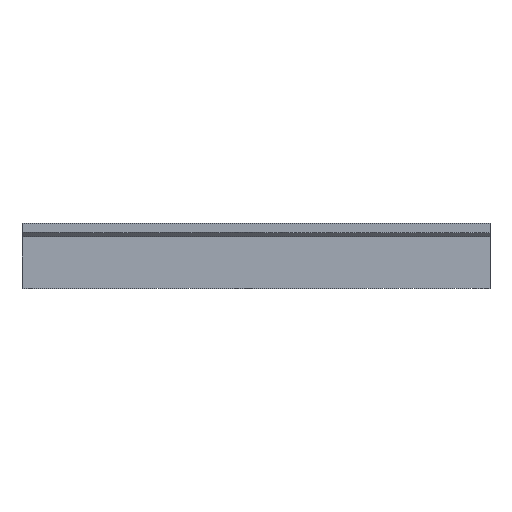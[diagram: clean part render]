
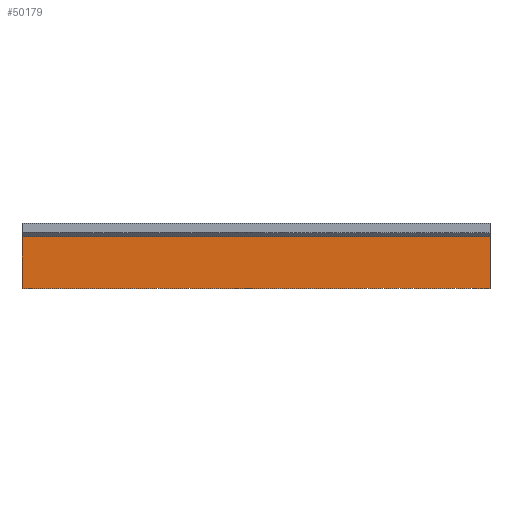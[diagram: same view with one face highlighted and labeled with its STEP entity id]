
A CAD part, front view. The second image highlights one B-rep face of the part: STEP entity #50179.
In plain terms, the highlighted planar face has unit normal (0, -1, 0).
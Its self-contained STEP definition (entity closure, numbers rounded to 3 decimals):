
#32 = PLANE('',#33);
#33 = AXIS2_PLACEMENT_3D('',#34,#35,#36);
#34 = CARTESIAN_POINT('',(-117.,-200.,-1.));
#35 = DIRECTION('',(1.,0.,-0.));
#36 = DIRECTION('',(0.,0.,1.));
#225 = VERTEX_POINT('',#226);
#226 = CARTESIAN_POINT('',(-117.,-176.,25.9));
#244 = B_SPLINE_SURFACE_WITH_KNOTS('',1,1,(
    (#245,#246)
    ,(#247,#248
    )),.UNSPECIFIED.,.F.,.F.,.F.,(2,2),(2,2),(0.,388.2),(0.,1.),
  .PIECEWISE_BEZIER_KNOTS.);
#245 = CARTESIAN_POINT('',(-192.,-176.,25.9));
#246 = CARTESIAN_POINT('',(-194.1,-178.1,28.));
#247 = CARTESIAN_POINT('',(192.,-176.,25.9));
#248 = CARTESIAN_POINT('',(194.1,-178.1,28.));
#258 = EDGE_CURVE('',#259,#225,#261,.T.);
#259 = VERTEX_POINT('',#260);
#260 = CARTESIAN_POINT('',(-117.,-176.,0.));
#261 = SURFACE_CURVE('',#262,(#266,#273),.PCURVE_S1.);
#262 = LINE('',#263,#264);
#263 = CARTESIAN_POINT('',(-117.,-176.,-0.5));
#264 = VECTOR('',#265,1.);
#265 = DIRECTION('',(0.,-0.,1.));
#266 = PCURVE('',#32,#267);
#267 = DEFINITIONAL_REPRESENTATION('',(#268),#272);
#268 = LINE('',#269,#270);
#269 = CARTESIAN_POINT('',(0.5,-24.));
#270 = VECTOR('',#271,1.);
#271 = DIRECTION('',(1.,0.));
#272 = ( GEOMETRIC_REPRESENTATION_CONTEXT(2) 
PARAMETRIC_REPRESENTATION_CONTEXT() REPRESENTATION_CONTEXT('2D SPACE',''
  ) );
#273 = PCURVE('',#274,#279);
#274 = PLANE('',#275);
#275 = AXIS2_PLACEMENT_3D('',#276,#277,#278);
#276 = CARTESIAN_POINT('',(-192.,-176.,0.));
#277 = DIRECTION('',(0.,1.,0.));
#278 = DIRECTION('',(1.,0.,0.));
#279 = DEFINITIONAL_REPRESENTATION('',(#280),#284);
#280 = LINE('',#281,#282);
#281 = CARTESIAN_POINT('',(75.,0.5));
#282 = VECTOR('',#283,1.);
#283 = DIRECTION('',(0.,-1.));
#284 = ( GEOMETRIC_REPRESENTATION_CONTEXT(2) 
PARAMETRIC_REPRESENTATION_CONTEXT() REPRESENTATION_CONTEXT('2D SPACE',''
  ) );
#302 = PLANE('',#303);
#303 = AXIS2_PLACEMENT_3D('',#304,#305,#306);
#304 = CARTESIAN_POINT('',(0.,-2.673,0.));
#305 = DIRECTION('',(0.,0.,1.));
#306 = DIRECTION('',(1.,0.,-0.));
#4550 = PLANE('',#4551);
#4551 = AXIS2_PLACEMENT_3D('',#4552,#4553,#4554);
#4552 = CARTESIAN_POINT('',(117.,-200.,-1.));
#4553 = DIRECTION('',(1.,0.,-0.));
#4554 = DIRECTION('',(0.,0.,1.));
#4738 = VERTEX_POINT('',#4739);
#4739 = CARTESIAN_POINT('',(117.,-176.,25.9));
#4766 = EDGE_CURVE('',#4767,#4738,#4769,.T.);
#4767 = VERTEX_POINT('',#4768);
#4768 = CARTESIAN_POINT('',(117.,-176.,0.));
#4769 = SURFACE_CURVE('',#4770,(#4774,#4781),.PCURVE_S1.);
#4770 = LINE('',#4771,#4772);
#4771 = CARTESIAN_POINT('',(117.,-176.,-0.5));
#4772 = VECTOR('',#4773,1.);
#4773 = DIRECTION('',(0.,-0.,1.));
#4774 = PCURVE('',#4550,#4775);
#4775 = DEFINITIONAL_REPRESENTATION('',(#4776),#4780);
#4776 = LINE('',#4777,#4778);
#4777 = CARTESIAN_POINT('',(0.5,-24.));
#4778 = VECTOR('',#4779,1.);
#4779 = DIRECTION('',(1.,0.));
#4780 = ( GEOMETRIC_REPRESENTATION_CONTEXT(2) 
PARAMETRIC_REPRESENTATION_CONTEXT() REPRESENTATION_CONTEXT('2D SPACE',''
  ) );
#4781 = PCURVE('',#274,#4782);
#4782 = DEFINITIONAL_REPRESENTATION('',(#4783),#4787);
#4783 = LINE('',#4784,#4785);
#4784 = CARTESIAN_POINT('',(309.,0.5));
#4785 = VECTOR('',#4786,1.);
#4786 = DIRECTION('',(0.,-1.));
#4787 = ( GEOMETRIC_REPRESENTATION_CONTEXT(2) 
PARAMETRIC_REPRESENTATION_CONTEXT() REPRESENTATION_CONTEXT('2D SPACE',''
  ) );
#50155 = EDGE_CURVE('',#259,#4767,#50156,.T.);
#50156 = SURFACE_CURVE('',#50157,(#50161,#50168),.PCURVE_S1.);
#50157 = LINE('',#50158,#50159);
#50158 = CARTESIAN_POINT('',(-192.,-176.,0.));
#50159 = VECTOR('',#50160,1.);
#50160 = DIRECTION('',(1.,0.,0.));
#50161 = PCURVE('',#302,#50162);
#50162 = DEFINITIONAL_REPRESENTATION('',(#50163),#50167);
#50163 = LINE('',#50164,#50165);
#50164 = CARTESIAN_POINT('',(-192.,-173.327));
#50165 = VECTOR('',#50166,1.);
#50166 = DIRECTION('',(1.,0.));
#50167 = ( GEOMETRIC_REPRESENTATION_CONTEXT(2) 
PARAMETRIC_REPRESENTATION_CONTEXT() REPRESENTATION_CONTEXT('2D SPACE',''
  ) );
#50168 = PCURVE('',#274,#50169);
#50169 = DEFINITIONAL_REPRESENTATION('',(#50170),#50174);
#50170 = LINE('',#50171,#50172);
#50171 = CARTESIAN_POINT('',(0.,0.));
#50172 = VECTOR('',#50173,1.);
#50173 = DIRECTION('',(1.,0.));
#50174 = ( GEOMETRIC_REPRESENTATION_CONTEXT(2) 
PARAMETRIC_REPRESENTATION_CONTEXT() REPRESENTATION_CONTEXT('2D SPACE',''
  ) );
#50179 = ADVANCED_FACE('',(#50180),#274,.F.);
#50180 = FACE_BOUND('',#50181,.F.);
#50181 = EDGE_LOOP('',(#50182,#50183,#50184,#50204));
#50182 = ORIENTED_EDGE('',*,*,#50155,.F.);
#50183 = ORIENTED_EDGE('',*,*,#258,.T.);
#50184 = ORIENTED_EDGE('',*,*,#50185,.T.);
#50185 = EDGE_CURVE('',#225,#4738,#50186,.T.);
#50186 = SURFACE_CURVE('',#50187,(#50191,#50198),.PCURVE_S1.);
#50187 = LINE('',#50188,#50189);
#50188 = CARTESIAN_POINT('',(-192.,-176.,25.9));
#50189 = VECTOR('',#50190,1.);
#50190 = DIRECTION('',(1.,0.,0.));
#50191 = PCURVE('',#274,#50192);
#50192 = DEFINITIONAL_REPRESENTATION('',(#50193),#50197);
#50193 = LINE('',#50194,#50195);
#50194 = CARTESIAN_POINT('',(0.,-25.9));
#50195 = VECTOR('',#50196,1.);
#50196 = DIRECTION('',(1.,0.));
#50197 = ( GEOMETRIC_REPRESENTATION_CONTEXT(2) 
PARAMETRIC_REPRESENTATION_CONTEXT() REPRESENTATION_CONTEXT('2D SPACE',''
  ) );
#50198 = PCURVE('',#244,#50199);
#50199 = DEFINITIONAL_REPRESENTATION('',(#50200),#50203);
#50200 = B_SPLINE_CURVE_WITH_KNOTS('',1,(#50201,#50202),.UNSPECIFIED.,
  .F.,.F.,(2,2),(0.,384.),.PIECEWISE_BEZIER_KNOTS.);
#50201 = CARTESIAN_POINT('',(0.,0.));
#50202 = CARTESIAN_POINT('',(388.2,0.));
#50203 = ( GEOMETRIC_REPRESENTATION_CONTEXT(2) 
PARAMETRIC_REPRESENTATION_CONTEXT() REPRESENTATION_CONTEXT('2D SPACE',''
  ) );
#50204 = ORIENTED_EDGE('',*,*,#4766,.F.);
